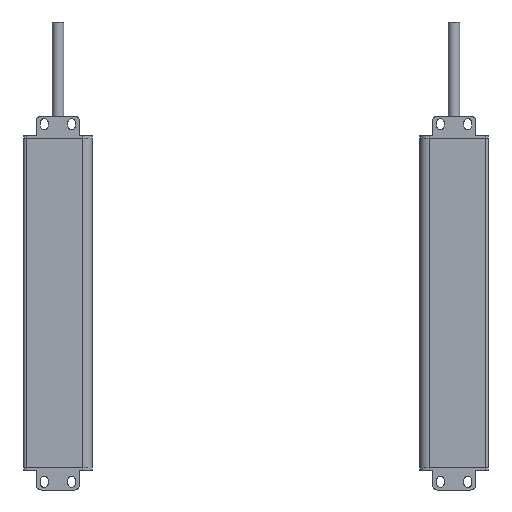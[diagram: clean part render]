
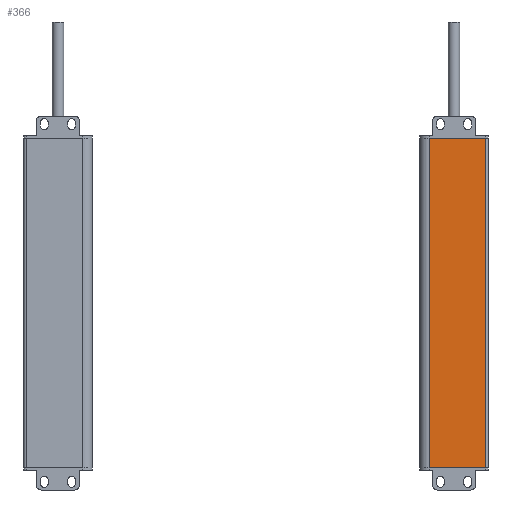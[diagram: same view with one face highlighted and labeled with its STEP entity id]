
A CAD part, front view. The second image highlights one B-rep face of the part: STEP entity #366.
In plain terms, the highlighted planar face has unit normal (0, -1, 0).
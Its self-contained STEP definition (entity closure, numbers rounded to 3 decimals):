
#123=PLANE('',#5869);
#366=ADVANCED_FACE('',(#797),#123,.T.);
#797=FACE_OUTER_BOUND('',#1073,.T.);
#1073=EDGE_LOOP('',(#1780,#1781,#1782,#1783));
#1780=ORIENTED_EDGE('',*,*,#3977,.T.);
#1781=ORIENTED_EDGE('',*,*,#3978,.F.);
#1782=ORIENTED_EDGE('',*,*,#3979,.F.);
#1783=ORIENTED_EDGE('',*,*,#3903,.T.);
#3351=VERTEX_POINT('',#8106);
#3352=VERTEX_POINT('',#8108);
#3421=VERTEX_POINT('',#8253);
#3422=VERTEX_POINT('',#8257);
#3903=EDGE_CURVE('',#3352,#3351,#4726,.T.);
#3977=EDGE_CURVE('',#3351,#3421,#4771,.T.);
#3978=EDGE_CURVE('',#3422,#3421,#4772,.T.);
#3979=EDGE_CURVE('',#3352,#3422,#4773,.T.);
#4726=LINE('',#8107,#5280);
#4771=LINE('',#8254,#5325);
#4772=LINE('',#8256,#5326);
#4773=LINE('',#8258,#5327);
#5280=VECTOR('',#6413,1.);
#5325=VECTOR('',#6522,1.);
#5326=VECTOR('',#6525,1.);
#5327=VECTOR('',#6526,1.);
#5869=AXIS2_PLACEMENT_3D('',#8259,#6527,#6528);
#6413=DIRECTION('',(1.,0.,0.));
#6522=DIRECTION('',(0.,0.,1.));
#6525=DIRECTION('',(1.,0.,0.));
#6526=DIRECTION('',(0.,0.,1.));
#6527=DIRECTION('',(0.,-1.,0.));
#6528=DIRECTION('',(-1.,0.,0.));
#8106=CARTESIAN_POINT('',(3.35,-1.3,-100.));
#8107=CARTESIAN_POINT('',(-21.15,-1.3,-100.));
#8108=CARTESIAN_POINT('',(-21.15,-1.3,-100.));
#8253=CARTESIAN_POINT('',(3.35,-1.3,42.));
#8254=CARTESIAN_POINT('',(3.35,-1.3,-100.));
#8256=CARTESIAN_POINT('',(-4122.897,-1.3,42.));
#8257=CARTESIAN_POINT('',(-21.15,-1.3,42.));
#8258=CARTESIAN_POINT('',(-21.15,-1.3,-100.));
#8259=CARTESIAN_POINT('',(-21.15,-1.3,-100.));
